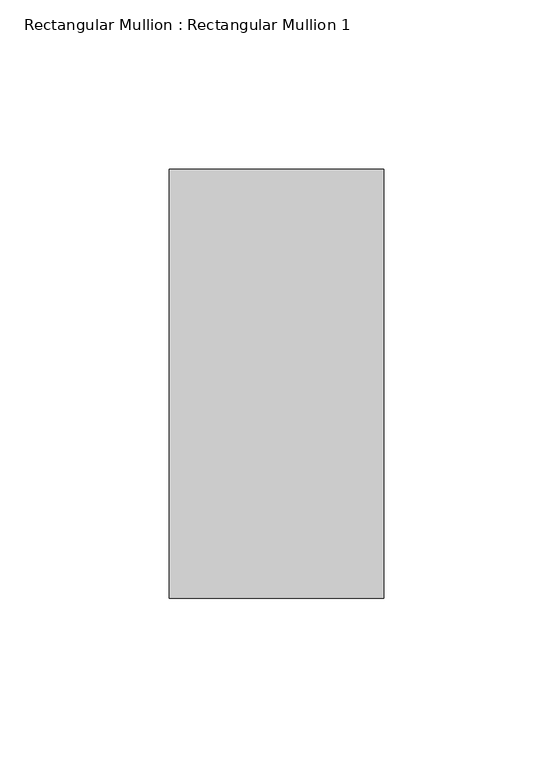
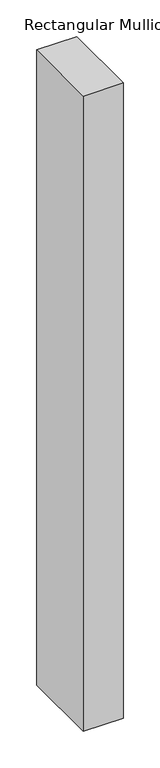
"""IFC4 building model written with IfcOpenShell, lengths in millimetres: member geometry, Rectangular Mullion : Rectangular Mullion 1."""

from ifc_helpers import new_model, si_unit, frame, origin, place, context, project, spatial, polyline, outline, extrude, source, transform, mapped, element, save


def rectangular_mullion_rectangular_mullion_1_227d3ff1(model_context):
    return source(origin(), model_context, "Body", "SweptSolid", [
        extrude(outline(polyline([(0.0, 63.5), (0.0, -63.5), (-63.5, -63.5), (-63.5, 63.5), (0.0, 63.5)])), frame((0.0, 0.0, -1059.0892859), z_axis=(0.0, 0.0, 1.0), x_axis=(1.0, 0.0, 0.0)), (0.0, 0.0, 1.0), 1059.0892859),
    ])


if __name__ == "__main__":
    model = new_model("IFC4")
    model_context = context("Model", 3, world=origin())
    ifc_project = project(units=[si_unit("LENGTHUNIT", "METRE", prefix="MILLI")], contexts=[model_context])
    site = spatial("IfcSite", under=ifc_project)
    building = spatial("IfcBuilding", under=site)
    placement = place(None, origin())
    rectangular_mullion_rectangular_mullion_1_shape = rectangular_mullion_rectangular_mullion_1_227d3ff1(model_context)
    element("IfcMember", 1, ObjectType="Rectangular Mullion : Rectangular Mullion 1", at=placement, inside=building, context=model_context, shape_type="MappedRepresentation", body=[
        mapped(rectangular_mullion_rectangular_mullion_1_shape, transform((0.0, 0.0, 0.0), x_axis=(1.0, 0.0, 0.0), y_axis=(0.0, 1.0, 0.0), z_axis=(0.0, 0.0, 1.0))),
    ])
    save(model, "model.ifc")
